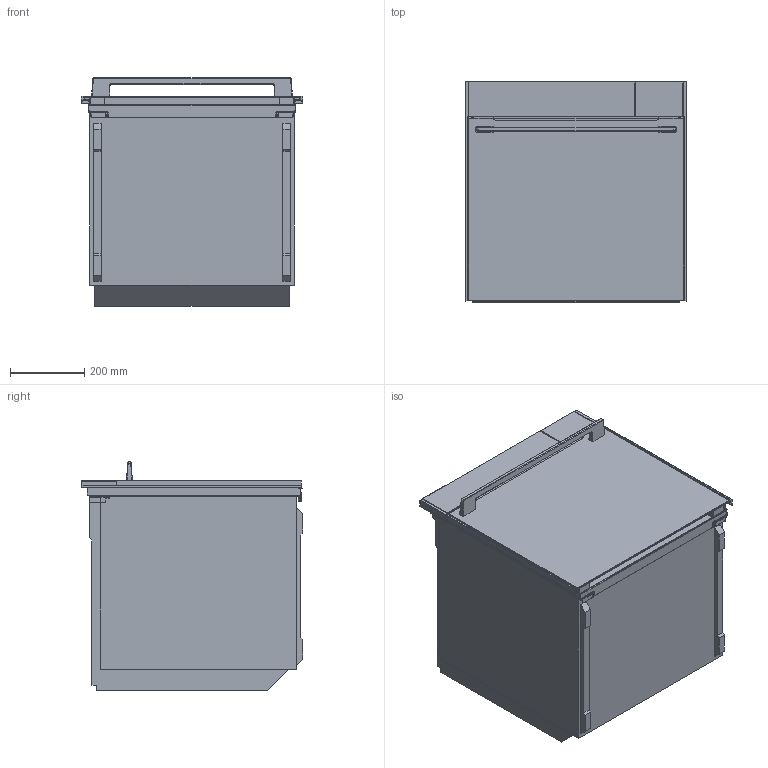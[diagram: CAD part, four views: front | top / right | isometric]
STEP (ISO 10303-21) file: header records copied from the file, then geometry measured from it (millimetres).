
FILE_DESCRIPTION (( 'STEP AP203' ), '1' );
FILE_NAME ('507872_OCS8678G.STEP', '2017-09-14T09:33:49', ( '' ), ( '' ), 'SwSTEP 2.0', 'SolidWorks 2016', '' );
FILE_SCHEMA (( 'CONFIG_CONTROL_DESIGN' ));
Length unit declared in the file: millimetre
Products named in the file (22): DOOR MAGNA 60 STEAM; 000_MAGNA ASSEMBLY 60-steam.sldasm-Part-41; 000_MAGNA ASSEMBLY 60-steam.sldasm-Part-42; OVEN 60 MAGNA STEAM; 000_MAGNA ASSEMBLY 60-steam.sldasm-Part-27; 000_MAGNA ASSEMBLY 60-steam.sldasm-Part-44; 507872_OCS8678G; 000_MAGNA ASSEMBLY 60-steam.sldasm-Part-40; Mirror000_MAGNA ASSEMBLY 60-steam.sldasm-Part-42; CEL APARAT BIO 60 ST Dot matrix G.sldasm-Part-69; FRAME MAGNA STEAM 60; CEL APARAT BIO 60 ST Dot matrix G.sldasm-Part-70; 000_MAGNA ASSEMBLY 60-steam.sldasm-Part-14; OBOD PECICE; 000_MAGNA ASSEMBLY 60-steam.sldasm-Part-17; PECICA; Mirror000_MAGNA ASSEMBLY 60-steam.sldasm-Part-40; CONTROL PANNEL MAGNA STEAM 60; 003.sldasm-Part-10; 000_MAGNA ASSEMBLY 60-steam.sldasm-Part-22; 000_MAGNA ASSEMBLY 60-steam; OBOD
Assembly tree (21 placements, depth 5):
  507872_OCS8678G
    OVEN 60 MAGNA STEAM
      PECICA
        OBOD PECICE
          CEL APARAT BIO 60 ST Dot matrix G.sldasm-Part-69
          CEL APARAT BIO 60 ST Dot matrix G.sldasm-Part-70
      OBOD
        003.sldasm-Part-10
      000_MAGNA ASSEMBLY 60-steam
        FRAME MAGNA STEAM 60
          000_MAGNA ASSEMBLY 60-steam.sldasm-Part-42
          000_MAGNA ASSEMBLY 60-steam.sldasm-Part-44
          Mirror000_MAGNA ASSEMBLY 60-steam.sldasm-Part-42
        CONTROL PANNEL MAGNA STEAM 60
          000_MAGNA ASSEMBLY 60-steam.sldasm-Part-14
          000_MAGNA ASSEMBLY 60-steam.sldasm-Part-17
      DOOR MAGNA 60 STEAM
        000_MAGNA ASSEMBLY 60-steam.sldasm-Part-41
        000_MAGNA ASSEMBLY 60-steam.sldasm-Part-27
        000_MAGNA ASSEMBLY 60-steam.sldasm-Part-40
        Mirror000_MAGNA ASSEMBLY 60-steam.sldasm-Part-40
        000_MAGNA ASSEMBLY 60-steam.sldasm-Part-22
Bounding box: 596.3 x 594.9 x 615.5 mm (x, y, z)
Volume: 159348759.5 mm3; surface area: 3596203.8 mm2
Topology: 13 solids, 15 shells, 516 faces, 1330 edges, 842 vertices
Faces by surface type: plane 243, cylinder 165, bspline 64, torus 38, sphere 6
Entity records: 20369 total; most frequent: CARTESIAN_POINT 5775, ORIENTED_EDGE 2652, DIRECTION 2473, EDGE_CURVE 1326, VERTEX_POINT 842, AXIS2_PLACEMENT_3D 838, VECTOR 797, LINE 797
